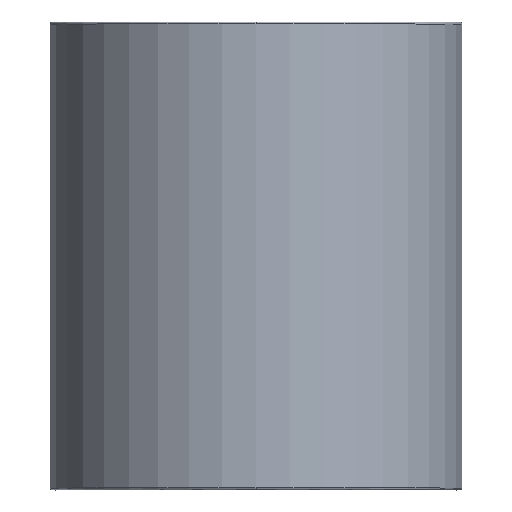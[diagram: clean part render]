
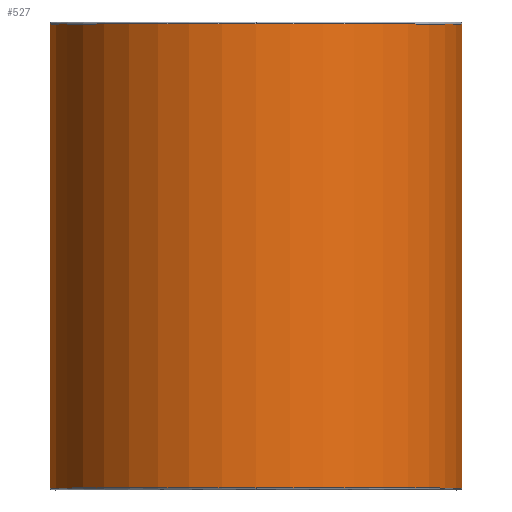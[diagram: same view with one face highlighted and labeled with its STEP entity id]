
A CAD part, top view. The second image highlights one B-rep face of the part: STEP entity #527.
In plain terms, the highlighted cylindrical face has radius 110.417 mm (diameter 220.833 mm), a partial arc.
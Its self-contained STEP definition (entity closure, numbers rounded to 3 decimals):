
#1 = LINE ( 'NONE', #324, #76 ) ;
#2 = AXIS2_PLACEMENT_3D ( 'NONE', #451, #318, #79 ) ;
#41 = DIRECTION ( 'NONE',  ( 0., -1., 0. ) ) ;
#51 = CARTESIAN_POINT ( 'NONE',  ( 0., 1., -9.583 ) ) ;
#54 = ORIENTED_EDGE ( 'NONE', *, *, #195, .T. ) ;
#66 = VERTEX_POINT ( 'NONE', #482 ) ;
#72 = VERTEX_POINT ( 'NONE', #446 ) ;
#76 = VECTOR ( 'NONE', #193, 1000. ) ;
#79 = DIRECTION ( 'NONE',  ( 0., 0., 1. ) ) ;
#80 = EDGE_CURVE ( 'NONE', #116, #100, #457, .T. ) ;
#98 = DIRECTION ( 'NONE',  ( 0., -1., 0. ) ) ;
#100 = VERTEX_POINT ( 'NONE', #235 ) ;
#101 = DIRECTION ( 'NONE',  ( 0., -1., 0. ) ) ;
#103 = DIRECTION ( 'NONE',  ( 0., 0., -1. ) ) ;
#109 = FACE_OUTER_BOUND ( 'NONE', #303, .T. ) ;
#116 = VERTEX_POINT ( 'NONE', #413 ) ;
#127 = CYLINDRICAL_SURFACE ( 'NONE', #517, 110.417 ) ;
#167 = EDGE_CURVE ( 'NONE', #168, #66, #335, .T. ) ;
#168 = VERTEX_POINT ( 'NONE', #364 ) ;
#176 = EDGE_CURVE ( 'NONE', #72, #66, #1, .T. ) ;
#177 = VERTEX_POINT ( 'NONE', #447 ) ;
#179 = VECTOR ( 'NONE', #101, 1000. ) ;
#192 = LINE ( 'NONE', #351, #179 ) ;
#193 = DIRECTION ( 'NONE',  ( 0., -1., 0. ) ) ;
#195 = EDGE_CURVE ( 'NONE', #72, #116, #449, .T. ) ;
#212 = ORIENTED_EDGE ( 'NONE', *, *, #167, .T. ) ;
#223 = CIRCLE ( 'NONE', #395, 110.417 ) ;
#232 = ORIENTED_EDGE ( 'NONE', *, *, #483, .T. ) ;
#235 = CARTESIAN_POINT ( 'NONE',  ( -110., 249., 0. ) ) ;
#274 = CARTESIAN_POINT ( 'NONE',  ( 0., 249., -9.583 ) ) ;
#275 = DIRECTION ( 'NONE',  ( 0., 0., 1. ) ) ;
#303 = EDGE_LOOP ( 'NONE', ( #232, #473, #212, #478, #54, #341 ) ) ;
#308 = AXIS2_PLACEMENT_3D ( 'NONE', #420, #373, #461 ) ;
#318 = DIRECTION ( 'NONE',  ( 0., 1., 0. ) ) ;
#324 = CARTESIAN_POINT ( 'NONE',  ( 110., 250., 0. ) ) ;
#335 = CIRCLE ( 'NONE', #2, 110.417 ) ;
#337 = DIRECTION ( 'NONE',  ( 0., 0., 1. ) ) ;
#341 = ORIENTED_EDGE ( 'NONE', *, *, #80, .T. ) ;
#349 = CARTESIAN_POINT ( 'NONE',  ( 0., 250., -9.583 ) ) ;
#351 = CARTESIAN_POINT ( 'NONE',  ( -110., 250., 0. ) ) ;
#364 = CARTESIAN_POINT ( 'NONE',  ( 0., 1., 100.833 ) ) ;
#373 = DIRECTION ( 'NONE',  ( 0., -1., 0. ) ) ;
#395 = AXIS2_PLACEMENT_3D ( 'NONE', #51, #429, #337 ) ;
#402 = EDGE_CURVE ( 'NONE', #177, #168, #223, .T. ) ;
#413 = CARTESIAN_POINT ( 'NONE',  ( 0., 249., 100.833 ) ) ;
#420 = CARTESIAN_POINT ( 'NONE',  ( 0., 249., -9.583 ) ) ;
#429 = DIRECTION ( 'NONE',  ( 0., 1., 0. ) ) ;
#446 = CARTESIAN_POINT ( 'NONE',  ( 110., 249., 0. ) ) ;
#447 = CARTESIAN_POINT ( 'NONE',  ( -110., 1., 0. ) ) ;
#449 = CIRCLE ( 'NONE', #308, 110.417 ) ;
#451 = CARTESIAN_POINT ( 'NONE',  ( 0., 1., -9.583 ) ) ;
#457 = CIRCLE ( 'NONE', #498, 110.417 ) ;
#461 = DIRECTION ( 'NONE',  ( 0., 0., 1. ) ) ;
#473 = ORIENTED_EDGE ( 'NONE', *, *, #402, .T. ) ;
#478 = ORIENTED_EDGE ( 'NONE', *, *, #176, .F. ) ;
#482 = CARTESIAN_POINT ( 'NONE',  ( 110., 1., 0. ) ) ;
#483 = EDGE_CURVE ( 'NONE', #100, #177, #192, .T. ) ;
#498 = AXIS2_PLACEMENT_3D ( 'NONE', #274, #41, #275 ) ;
#517 = AXIS2_PLACEMENT_3D ( 'NONE', #349, #98, #103 ) ;
#527 = ADVANCED_FACE ( 'NONE', ( #109 ), #127, .T. ) ;
